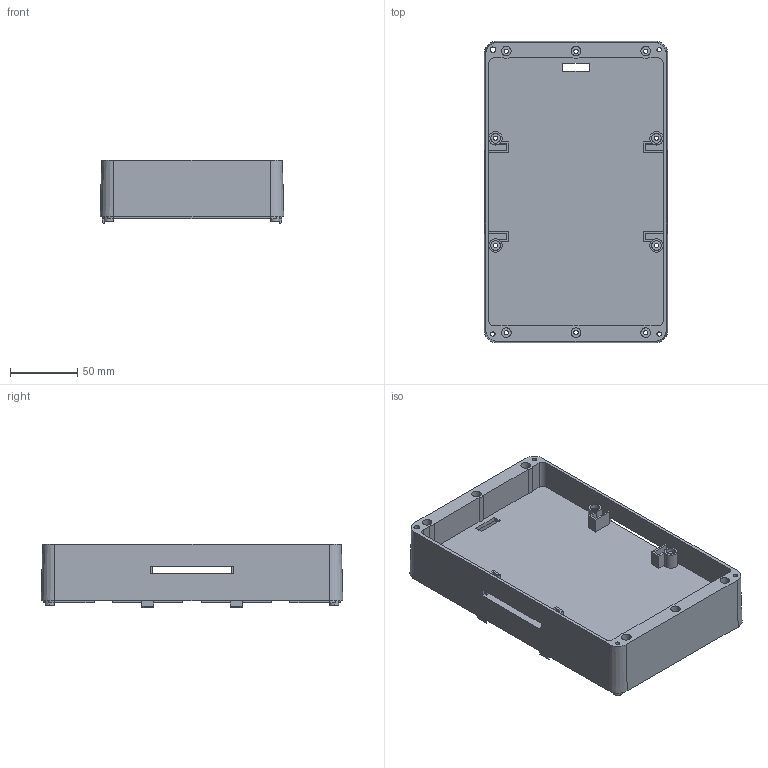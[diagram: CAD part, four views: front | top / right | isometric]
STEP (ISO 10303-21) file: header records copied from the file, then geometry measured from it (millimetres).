
FILE_DESCRIPTION((''),'2;1');
FILE_NAME('K-BOT250701002_12_2_1_1_1_1_1','2025-07-13T10:34:36',('Administrator'),(''),'CREO PARAMETRIC BY PTC INC, 2022073','CREO PARAMETRIC BY PTC INC, 2022073','');
FILE_SCHEMA(('CONFIG_CONTROL_DESIGN'));
Length unit declared in the file: millimetre
Products named in the file (1): K-BOT250701002_12_2_1_1_1_1_1
Bounding box: 137 x 225 x 47 mm (x, y, z)
Volume: 195913.4 mm3; surface area: 136624.9 mm2
Topology: 1 solids, 1 shells, 376 faces, 1134 edges, 766 vertices
Faces by surface type: plane 234, cylinder 130, cone 12
Entity records: 13044 total; most frequent: CARTESIAN_POINT 2382, ORIENTED_EDGE 2268, DIRECTION 2236, EDGE_CURVE 1134, VERTEX_POINT 766, AXIS2_PLACEMENT_3D 758, VECTOR 720, LINE 720
